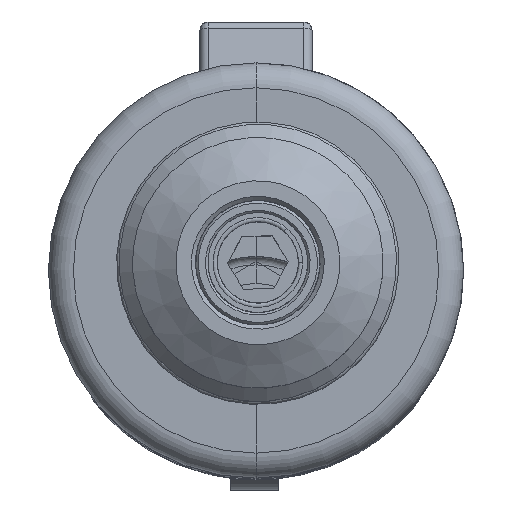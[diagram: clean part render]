
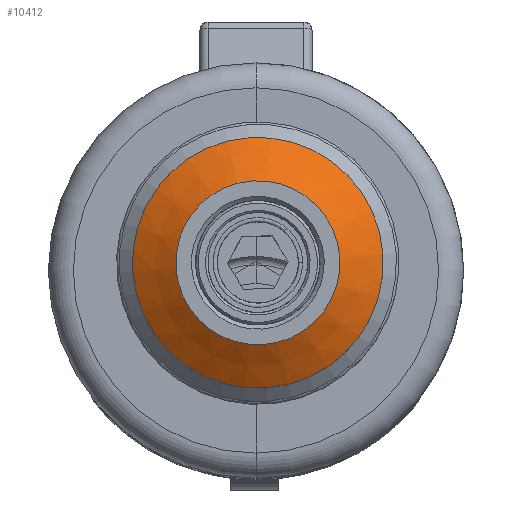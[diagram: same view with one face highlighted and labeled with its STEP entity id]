
A CAD part, top view. The second image highlights one B-rep face of the part: STEP entity #10412.
In plain terms, the highlighted conical face has half-angle 56.184 degrees and reference radius 9.875 mm.
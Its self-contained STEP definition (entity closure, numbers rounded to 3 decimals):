
#2843 = CARTESIAN_POINT ( 'NONE',  ( -9.073, 84.028, -116.466 ) ) ;
#4490 = FACE_OUTER_BOUND ( 'NONE', #62765, .T. ) ;
#10412 = ADVANCED_FACE ( 'NONE', ( #4490, #105292 ), #104781, .T. ) ;
#19843 = DIRECTION ( 'NONE',  ( 0.104, 0.995, 0. ) ) ;
#22968 = DIRECTION ( 'NONE',  ( 0., 0., 1. ) ) ;
#28798 = ORIENTED_EDGE ( 'NONE', *, *, #79318, .T. ) ;
#31258 = CARTESIAN_POINT ( 'NONE',  ( -9.073, 84.028, -116.466 ) ) ;
#32908 = CARTESIAN_POINT ( 'NONE',  ( -8.041, 93.849, -116.466 ) ) ;
#36485 = DIRECTION ( 'NONE',  ( 0., 0., -1. ) ) ;
#36878 = CIRCLE ( 'NONE', #87790, 9.875 ) ;
#39377 = EDGE_LOOP ( 'NONE', ( #105720 ) ) ;
#41715 = VERTEX_POINT ( 'NONE', #32908 ) ;
#42103 = EDGE_CURVE ( 'NONE', #41715, #41715, #36878, .T. ) ;
#46286 = DIRECTION ( 'NONE',  ( 0., 0., 1. ) ) ;
#48874 = DIRECTION ( 'NONE',  ( 0.104, 0.995, 0. ) ) ;
#59290 = CARTESIAN_POINT ( 'NONE',  ( -7.495, 99.046, -119.966 ) ) ;
#62765 = EDGE_LOOP ( 'NONE', ( #28798 ) ) ;
#69728 = VERTEX_POINT ( 'NONE', #59290 ) ;
#79318 = EDGE_CURVE ( 'NONE', #69728, #69728, #96970, .T. ) ;
#85950 = CARTESIAN_POINT ( 'NONE',  ( -9.073, 84.028, -119.966 ) ) ;
#87790 = AXIS2_PLACEMENT_3D ( 'NONE', #31258, #22968, #48874 ) ;
#88890 = AXIS2_PLACEMENT_3D ( 'NONE', #2843, #36485, #95946 ) ;
#93511 = AXIS2_PLACEMENT_3D ( 'NONE', #85950, #46286, #19843 ) ;
#95946 = DIRECTION ( 'NONE',  ( -0.104, -0.995, 0. ) ) ;
#96970 = CIRCLE ( 'NONE', #93511, 15.1 ) ;
#104781 = CONICAL_SURFACE ( 'NONE', #88890, 9.875, 0.981 ) ;
#105292 = FACE_BOUND ( 'NONE', #39377, .T. ) ;
#105720 = ORIENTED_EDGE ( 'NONE', *, *, #42103, .F. ) ;
